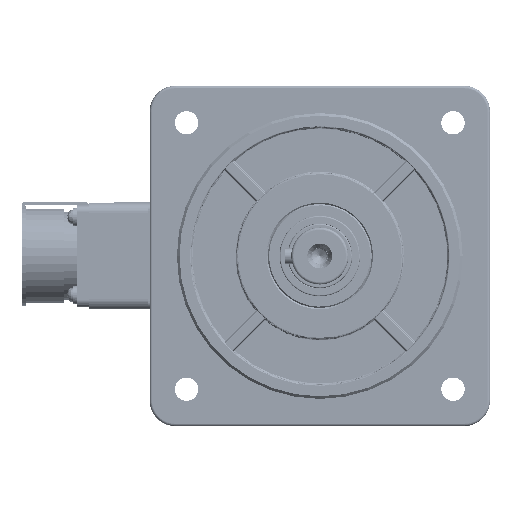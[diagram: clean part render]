
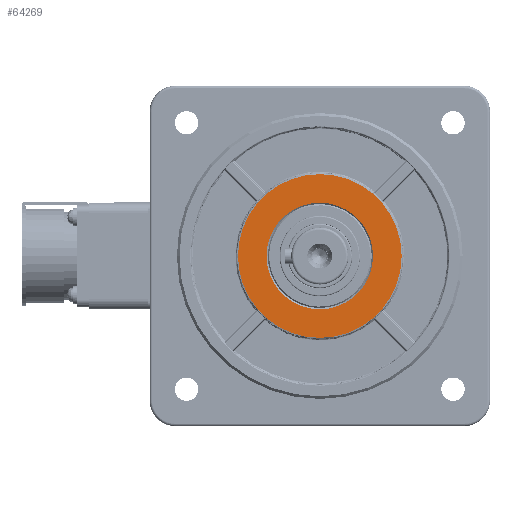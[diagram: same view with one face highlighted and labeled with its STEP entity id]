
A CAD part, left-side view. The second image highlights one B-rep face of the part: STEP entity #64269.
In plain terms, the highlighted planar face has unit normal (-1, 0, 0) as drawn and (1, 0, 0) by its records, which use the part's own axes.
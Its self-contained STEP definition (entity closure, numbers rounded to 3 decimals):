
#1554 = CARTESIAN_POINT ( 'NONE',  ( 30., 0., 0. ) ) ;
#3782 = VERTEX_POINT ( 'NONE', #5496 ) ;
#5496 = CARTESIAN_POINT ( 'NONE',  ( 30., 0., -20.5 ) ) ;
#10098 = VERTEX_POINT ( 'NONE', #107477 ) ;
#12756 = ORIENTED_EDGE ( 'NONE', *, *, #23373, .T. ) ;
#15510 = DIRECTION ( 'NONE',  ( -1., 0., 0. ) ) ;
#17056 = AXIS2_PLACEMENT_3D ( 'NONE', #1554, #37357, #73335 ) ;
#23373 = EDGE_CURVE ( 'NONE', #88508, #104678, #40848, .T. ) ;
#23655 = ORIENTED_EDGE ( 'NONE', *, *, #49123, .T. ) ;
#26446 = DIRECTION ( 'NONE',  ( -1., 0., 0. ) ) ;
#27898 = DIRECTION ( 'NONE',  ( 1., 0., 0. ) ) ;
#32088 = AXIS2_PLACEMENT_3D ( 'NONE', #107041, #26446, #62402 ) ;
#32260 = CIRCLE ( 'NONE', #98011, 31.5 ) ;
#34426 = DIRECTION ( 'NONE',  ( 1., 0., 0. ) ) ;
#35247 = FACE_OUTER_BOUND ( 'NONE', #105377, .T. ) ;
#37357 = DIRECTION ( 'NONE',  ( -1., 0., 0. ) ) ;
#40848 = CIRCLE ( 'NONE', #55899, 31.5 ) ;
#42883 = CIRCLE ( 'NONE', #108629, 20.5 ) ;
#49123 = EDGE_CURVE ( 'NONE', #3782, #10098, #67868, .T. ) ;
#51372 = DIRECTION ( 'NONE',  ( 0., 0., 1. ) ) ;
#55899 = AXIS2_PLACEMENT_3D ( 'NONE', #108500, #27898, #63862 ) ;
#57829 = EDGE_LOOP ( 'NONE', ( #23655, #68971 ) ) ;
#58478 = CARTESIAN_POINT ( 'NONE',  ( 30., 0., 31.5 ) ) ;
#62402 = DIRECTION ( 'NONE',  ( 0., 0., 1. ) ) ;
#63862 = DIRECTION ( 'NONE',  ( 0., 0., 1. ) ) ;
#64269 = ADVANCED_FACE ( 'NONE', ( #115859, #35247 ), #71214, .F. ) ;
#65882 = EDGE_CURVE ( 'NONE', #104678, #88508, #32260, .T. ) ;
#67868 = CIRCLE ( 'NONE', #17056, 20.5 ) ;
#68542 = ORIENTED_EDGE ( 'NONE', *, *, #65882, .T. ) ;
#68971 = ORIENTED_EDGE ( 'NONE', *, *, #104551, .T. ) ;
#70396 = DIRECTION ( 'NONE',  ( 0., 0., 1. ) ) ;
#71214 = PLANE ( 'NONE',  #32088 ) ;
#73335 = DIRECTION ( 'NONE',  ( 0., 0., 1. ) ) ;
#88508 = VERTEX_POINT ( 'NONE', #58478 ) ;
#96061 = CARTESIAN_POINT ( 'NONE',  ( 30., 0., 0. ) ) ;
#98011 = AXIS2_PLACEMENT_3D ( 'NONE', #115058, #34426, #70396 ) ;
#104551 = EDGE_CURVE ( 'NONE', #10098, #3782, #42883, .T. ) ;
#104678 = VERTEX_POINT ( 'NONE', #106621 ) ;
#105377 = EDGE_LOOP ( 'NONE', ( #12756, #68542 ) ) ;
#106621 = CARTESIAN_POINT ( 'NONE',  ( 30., 0., -31.5 ) ) ;
#107041 = CARTESIAN_POINT ( 'NONE',  ( 30., 20., 0. ) ) ;
#107477 = CARTESIAN_POINT ( 'NONE',  ( 30., 0., 20.5 ) ) ;
#108500 = CARTESIAN_POINT ( 'NONE',  ( 30., 0., 0. ) ) ;
#108629 = AXIS2_PLACEMENT_3D ( 'NONE', #96061, #15510, #51372 ) ;
#115058 = CARTESIAN_POINT ( 'NONE',  ( 30., 0., 0. ) ) ;
#115859 = FACE_BOUND ( 'NONE', #57829, .T. ) ;
